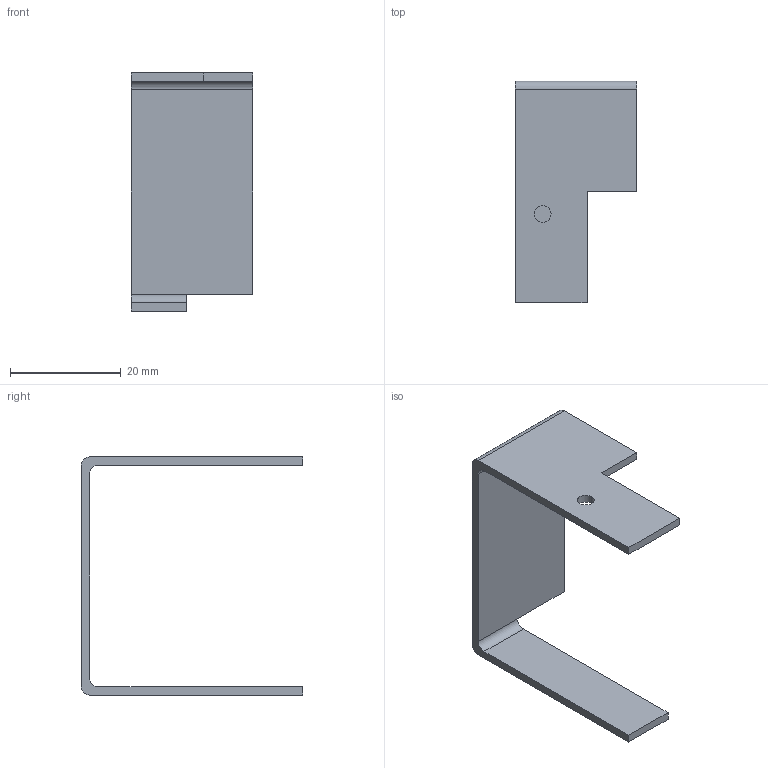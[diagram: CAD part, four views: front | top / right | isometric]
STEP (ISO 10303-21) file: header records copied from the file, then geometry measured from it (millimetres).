
FILE_DESCRIPTION (( 'STEP AP203' ), '1' );
FILE_NAME ('HDR60_初级散热器.STEP', '2025-01-17T04:39:40', ( '' ), ( '' ), 'SwSTEP 2.0', 'SolidWorks 2018', '' );
FILE_SCHEMA (( 'CONFIG_CONTROL_DESIGN' ));
Length unit declared in the file: millimetre
Products named in the file (1): HDR60_初级散热器
Bounding box: 22 x 40 x 43 mm (x, y, z)
Volume: 2932.4 mm3; surface area: 4308.8 mm2
Topology: 1 solids, 1 shells, 20 faces, 53 edges, 35 vertices
Faces by surface type: plane 14, cylinder 6
Entity records: 702 total; most frequent: CARTESIAN_POINT 109, DIRECTION 107, ORIENTED_EDGE 106, EDGE_CURVE 53, VECTOR 41, LINE 41, VERTEX_POINT 35, AXIS2_PLACEMENT_3D 33
